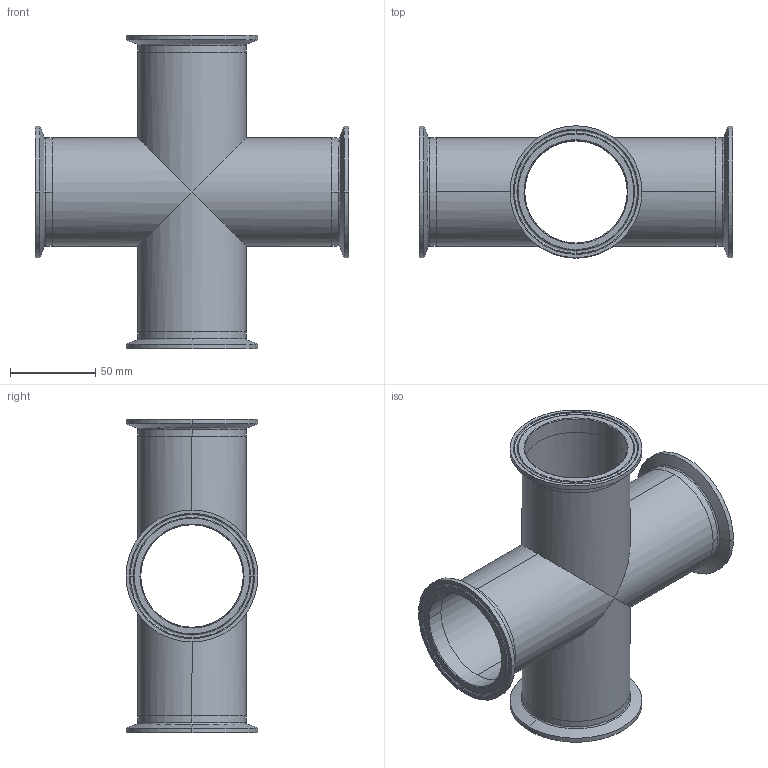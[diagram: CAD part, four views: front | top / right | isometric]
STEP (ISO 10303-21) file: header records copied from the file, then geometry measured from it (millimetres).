
FILE_DESCRIPTION (( 'STEP AP214' ), '1' );
FILE_NAME ('TEG96L2.5-...STEP', '2016-05-22T05:41:58', ( 'eran' ), ( '' ), 'SwSTEP 2.0', 'SolidWorks 2016', '' );
FILE_SCHEMA (( 'AUTOMOTIVE_DESIGN' ));
Length unit declared in the file: millimetre
Products named in the file (1): TEG96L2.5-..
Bounding box: 184.15 x 77.39 x 184.15 mm (x, y, z)
Volume: 116765.8 mm3; surface area: 127750.7 mm2
Topology: 5 solids, 5 shells, 120 faces, 302 edges, 194 vertices
Faces by surface type: cylinder 40, bspline 40, cone 24, plane 16
Entity records: 6446 total; most frequent: CARTESIAN_POINT 3537, DIRECTION 622, ORIENTED_EDGE 604, EDGE_CURVE 302, AXIS2_PLACEMENT_3D 279, CIRCLE 198, VERTEX_POINT 194, EDGE_LOOP 136
